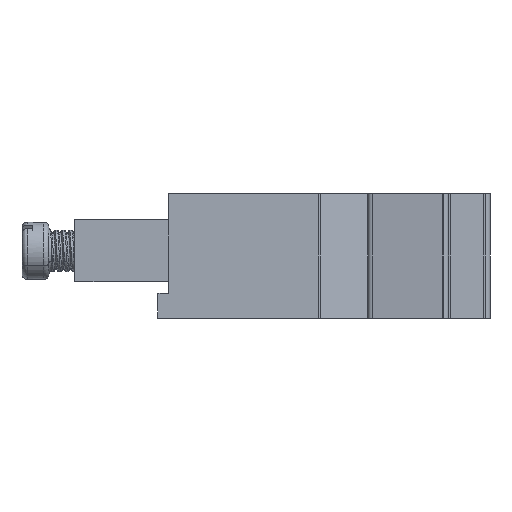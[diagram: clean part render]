
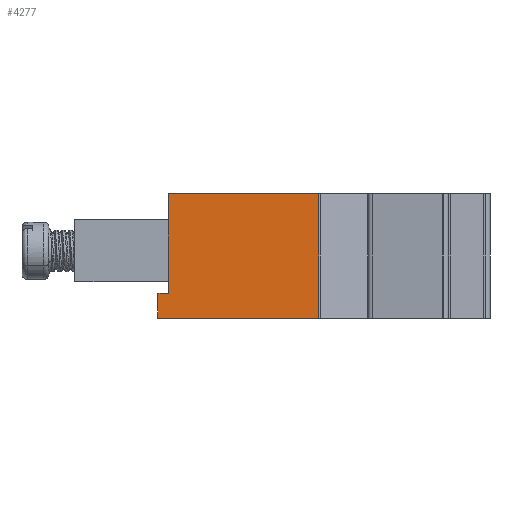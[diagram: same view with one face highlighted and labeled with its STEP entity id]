
A CAD part, left-side view. The second image highlights one B-rep face of the part: STEP entity #4277.
In plain terms, the highlighted planar face has unit normal (-1, 0, 0).
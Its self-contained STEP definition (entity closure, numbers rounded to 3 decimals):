
#115 = VERTEX_POINT ( 'NONE', #5677 ) ;
#120 = EDGE_CURVE ( 'NONE', #7372, #5497, #5657, .T. ) ;
#221 = CARTESIAN_POINT ( 'NONE',  ( 0., -14.487, 12. ) ) ;
#495 = ORIENTED_EDGE ( 'NONE', *, *, #120, .T. ) ;
#706 = VECTOR ( 'NONE', #8480, 1000. ) ;
#1078 = EDGE_LOOP ( 'NONE', ( #8130, #495, #2092, #5437, #5920, #4528 ) ) ;
#1358 = VECTOR ( 'NONE', #8876, 1000. ) ;
#1435 = DIRECTION ( 'NONE',  ( 1., 0., 0. ) ) ;
#1845 = LINE ( 'NONE', #8420, #10945 ) ;
#2002 = LINE ( 'NONE', #3762, #2583 ) ;
#2092 = ORIENTED_EDGE ( 'NONE', *, *, #6995, .F. ) ;
#2118 = CARTESIAN_POINT ( 'NONE',  ( 0., -14.6, 0. ) ) ;
#2148 = VECTOR ( 'NONE', #10631, 1000. ) ;
#2532 = CARTESIAN_POINT ( 'NONE',  ( 0., -14.6, 12. ) ) ;
#2565 = LINE ( 'NONE', #2118, #706 ) ;
#2583 = VECTOR ( 'NONE', #9190, 1000. ) ;
#2897 = AXIS2_PLACEMENT_3D ( 'NONE', #4152, #1435, #7806 ) ;
#2930 = VERTEX_POINT ( 'NONE', #5451 ) ;
#3762 = CARTESIAN_POINT ( 'NONE',  ( 0., 0., 2.4 ) ) ;
#3849 = DIRECTION ( 'NONE',  ( 0., 0., 1. ) ) ;
#3960 = CARTESIAN_POINT ( 'NONE',  ( 0., -14.487, 0. ) ) ;
#4152 = CARTESIAN_POINT ( 'NONE',  ( 0., -14.6, 12. ) ) ;
#4277 = ADVANCED_FACE ( 'NONE', ( #10487 ), #9587, .F. ) ;
#4528 = ORIENTED_EDGE ( 'NONE', *, *, #5608, .T. ) ;
#5437 = ORIENTED_EDGE ( 'NONE', *, *, #10648, .T. ) ;
#5451 = CARTESIAN_POINT ( 'NONE',  ( 0., 1., 2.4 ) ) ;
#5497 = VERTEX_POINT ( 'NONE', #5521 ) ;
#5521 = CARTESIAN_POINT ( 'NONE',  ( 0., -14.487, 12. ) ) ;
#5608 = EDGE_CURVE ( 'NONE', #2930, #11475, #1845, .T. ) ;
#5657 = LINE ( 'NONE', #221, #7505 ) ;
#5677 = CARTESIAN_POINT ( 'NONE',  ( 0., 0., 2.4 ) ) ;
#5920 = ORIENTED_EDGE ( 'NONE', *, *, #10976, .T. ) ;
#6139 = VERTEX_POINT ( 'NONE', #8248 ) ;
#6309 = EDGE_CURVE ( 'NONE', #11475, #7372, #2565, .T. ) ;
#6995 = EDGE_CURVE ( 'NONE', #6139, #5497, #8621, .T. ) ;
#7372 = VERTEX_POINT ( 'NONE', #3960 ) ;
#7505 = VECTOR ( 'NONE', #3849, 1000. ) ;
#7806 = DIRECTION ( 'NONE',  ( 0., 0., -1. ) ) ;
#7928 = CARTESIAN_POINT ( 'NONE',  ( 0., 0., 12. ) ) ;
#8130 = ORIENTED_EDGE ( 'NONE', *, *, #6309, .T. ) ;
#8248 = CARTESIAN_POINT ( 'NONE',  ( 0., 0., 12. ) ) ;
#8420 = CARTESIAN_POINT ( 'NONE',  ( 0., 1., 2.4 ) ) ;
#8480 = DIRECTION ( 'NONE',  ( 0., -1., 0. ) ) ;
#8621 = LINE ( 'NONE', #2532, #1358 ) ;
#8876 = DIRECTION ( 'NONE',  ( 0., -1., 0. ) ) ;
#9115 = CARTESIAN_POINT ( 'NONE',  ( 0., 1., 0. ) ) ;
#9124 = LINE ( 'NONE', #7928, #2148 ) ;
#9190 = DIRECTION ( 'NONE',  ( 0., 1., 0. ) ) ;
#9320 = DIRECTION ( 'NONE',  ( 0., 0., -1. ) ) ;
#9587 = PLANE ( 'NONE',  #2897 ) ;
#10487 = FACE_OUTER_BOUND ( 'NONE', #1078, .T. ) ;
#10631 = DIRECTION ( 'NONE',  ( 0., 0., -1. ) ) ;
#10648 = EDGE_CURVE ( 'NONE', #6139, #115, #9124, .T. ) ;
#10945 = VECTOR ( 'NONE', #9320, 1000. ) ;
#10976 = EDGE_CURVE ( 'NONE', #115, #2930, #2002, .T. ) ;
#11475 = VERTEX_POINT ( 'NONE', #9115 ) ;
